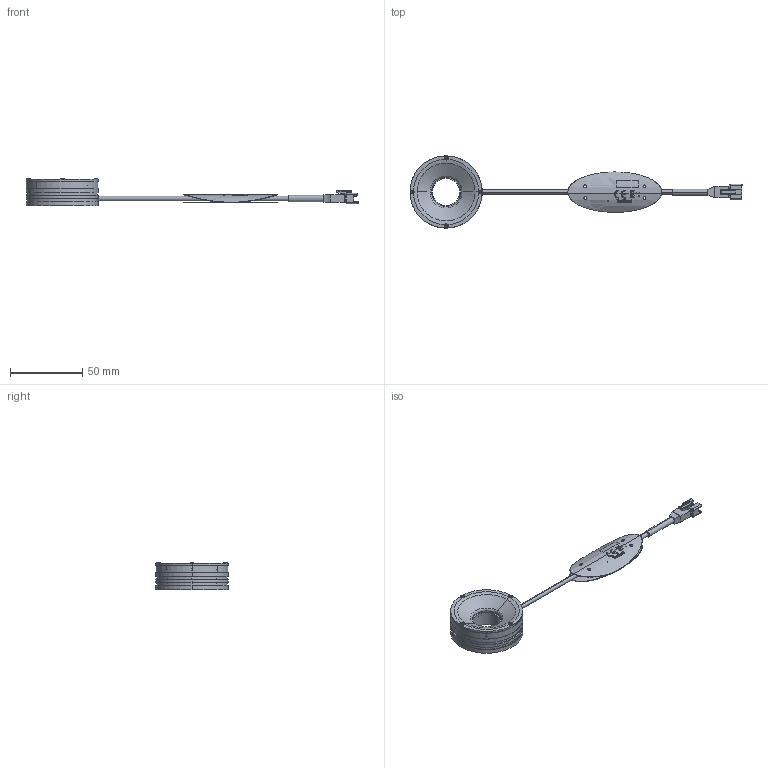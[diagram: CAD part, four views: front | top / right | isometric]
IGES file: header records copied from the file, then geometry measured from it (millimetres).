
Start section: 3D InterOp IGES (v. 2019 1.0.2), Spatial Corp. Copyright (c) 1999-2017.
Global section: file name: VMR-5090_DRAWING_3D.iges; native system: Spatial Corp.; preprocessor: 3D InterOp ACIS/IGES; author: Noname; organization: Noname; date: 20230913.095346; units: millimetre
Bounding box: 230 x 50 x 19 mm (x, y, z)
Surface area: 28341.6 mm2 (no closed solid volume)
Topology: 0 solids, 0 shells, 748 faces, 3968 edges, 3927 vertices
Faces by surface type: extrusion 391, revolution 351, bspline 6
